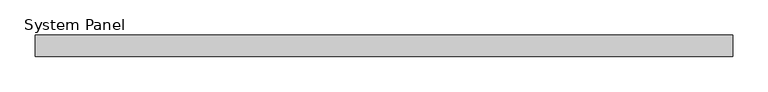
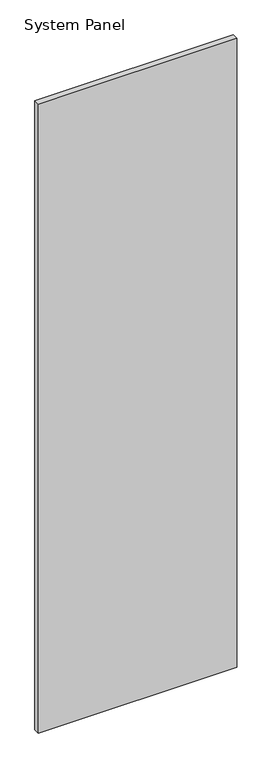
"""IFC4 building model written with IfcOpenShell, lengths in millimetres: plate geometry, System Panel : Panel_Glazed_Generic Showcase_30mm."""

import ifcopenshell
import ifcopenshell.guid

model = None  # the IFC model being written
_history = None  # IfcOwnerHistory: only IFC2X3 demands one
_inside = {}  # id of a spatial element -> (the spatial element, [elements in it])
_under = {}  # id of a project, library or spatial element -> (it, [spatial elements below it])
_declared = {}  # id of a project -> (the project, [libraries it declares])
_typed = {}  # id of a type object -> (the type object, [elements of that type])
_made_of = {}  # id of a material, layer set ... -> (it, [elements and type objects made of it])


def new_model(schema):
    """Start an empty IFC model of exactly this schema.

    Asked for "IFC4X3", IfcOpenShell would pick the latest addendum, in which some entities
    have other attributes; the version numbers below select the first issue.
    IFC2X3 requires an IfcOwnerHistory on every rooted entity: one is made here for all.
    """
    global model, _history
    if schema == "IFC4X3":
        model = ifcopenshell.file(schema_version=(4, 3, 0, 0))
    else:
        model = ifcopenshell.file(schema=schema)
    _inside.clear()
    _under.clear()
    _declared.clear()
    _typed.clear()
    _made_of.clear()
    _history = None
    if model.schema == "IFC2X3":
        org = make("IfcOrganization", Name="unknown")
        user = make(
            "IfcPersonAndOrganization",
            ThePerson=make("IfcPerson", FamilyName="unknown"),
            TheOrganization=org,
        )
        app = make(
            "IfcApplication",
            ApplicationDeveloper=org,
            Version="unknown",
            ApplicationFullName="unknown",
            ApplicationIdentifier="unknown",
        )
        _history = make(
            "IfcOwnerHistory",
            OwningUser=user,
            OwningApplication=app,
            ChangeAction="ADDED",
            CreationDate=0,
        )
    return model


def make(cls, **values):
    """One entity of the class cls with the attributes given. An attribute that is None is left unset."""
    return model.create_entity(
        cls, **{name: value for name, value in values.items() if value is not None}
    )


def rooted(cls, **values):
    """An entity with a GlobalId (a new one), such as an element, a storey or a relation."""
    return make(cls, GlobalId=ifcopenshell.guid.new(), OwnerHistory=_history, **values)


def si_unit(unit_type, name, prefix=None):
    """IfcSIUnit, for example si_unit("LENGTHUNIT", "METRE", prefix="MILLI")."""
    return make("IfcSIUnit", UnitType=unit_type, Prefix=prefix, Name=name)


def assignment(units):
    """IfcUnitAssignment: the units of a project."""
    return None if units is None else make("IfcUnitAssignment", Units=units)


def point(xyz):
    """IfcCartesianPoint."""
    return None if xyz is None else make("IfcCartesianPoint", Coordinates=xyz)


def direction(xyz):
    """IfcDirection."""
    return None if xyz is None else make("IfcDirection", DirectionRatios=xyz)


def frame(location, z_axis=None, x_axis=None):
    """IfcAxis2Placement3D, a coordinate frame: its origin and axes. An axis left out is left unset."""
    return make(
        "IfcAxis2Placement3D",
        Location=point(location),
        Axis=direction(z_axis),
        RefDirection=direction(x_axis),
    )


def origin():
    """The frame at (0, 0, 0) with its axes left unset."""
    return frame((0.0, 0.0, 0.0))


def origin_with_axes():
    """The frame at (0, 0, 0) with the z axis (0, 0, 1) and the x axis (1, 0, 0) written out."""
    return frame((0.0, 0.0, 0.0), z_axis=(0.0, 0.0, 1.0), x_axis=(1.0, 0.0, 0.0))


def place(relative_to, where):
    """IfcLocalPlacement: puts the frame where relative to a parent placement (None: the world)."""
    return make(
        "IfcLocalPlacement", PlacementRelTo=relative_to, RelativePlacement=where
    )


def context(
    kind, dimensions, precision=None, world=None, true_north=None, identifier=None
):
    """IfcGeometricRepresentationContext, for example the 3D "Model" context."""
    return make(
        "IfcGeometricRepresentationContext",
        ContextIdentifier=identifier,
        ContextType=kind,
        CoordinateSpaceDimension=dimensions,
        Precision=precision,
        WorldCoordinateSystem=world,
        TrueNorth=true_north,
    )


def project(units=None, contexts=None):
    """IfcProject with its units and contexts."""
    return rooted(
        "IfcProject",
        Name="project",
        RepresentationContexts=contexts,
        UnitsInContext=assignment(units),
    )


def spatial(cls, under=None, at=None, **own):
    """A site, building, storey or space (cls), placed at a placement, below another one or the project."""
    s = rooted(cls, ObjectPlacement=at, **own)
    if under is not None:
        _under.setdefault(under.id(), (under, []))[1].append(s)
    return s


def polyline(points):
    """IfcPolyline through the points."""
    return make("IfcPolyline", Points=[point(p) for p in points])


def outline(outer, holes=None, kind="AREA"):
    """IfcArbitraryClosedProfileDef: a profile drawn as a closed curve; with holes, ...WithVoids."""
    if holes is None:
        return make("IfcArbitraryClosedProfileDef", ProfileType=kind, OuterCurve=outer)
    return make(
        "IfcArbitraryProfileDefWithVoids",
        ProfileType=kind,
        OuterCurve=outer,
        InnerCurves=holes,
    )


def extrude(swept, where, along, depth):
    """IfcExtrudedAreaSolid: the profile swept, set in the frame where, extruded along a direction by depth."""
    return make(
        "IfcExtrudedAreaSolid",
        SweptArea=swept,
        Position=where,
        ExtrudedDirection=direction(along),
        Depth=depth,
    )


def shape(context_of_items, identifier, shape_type, items):
    """IfcShapeRepresentation: the items that make up one representation, for example the "Body"."""
    return make(
        "IfcShapeRepresentation",
        ContextOfItems=context_of_items,
        RepresentationIdentifier=identifier,
        RepresentationType=shape_type,
        Items=items,
    )


def source(mapping_origin, context_of_items, identifier, shape_type, items):
    """IfcRepresentationMap: a shape defined once, which mapped items show again and again."""
    return make(
        "IfcRepresentationMap",
        MappingOrigin=mapping_origin,
        MappedRepresentation=shape(context_of_items, identifier, shape_type, items),
    )


def transform(
    local_origin,
    x_axis=None,
    y_axis=None,
    z_axis=None,
    scale=None,
    scale2=None,
    scale3=None,
    uniform=True,
):
    """IfcCartesianTransformationOperator3D, or its non-uniform kind. x_axis, y_axis, z_axis: its Axis1, 2, 3."""
    if uniform:
        return make(
            "IfcCartesianTransformationOperator3D",
            Axis1=direction(x_axis),
            Axis2=direction(y_axis),
            LocalOrigin=point(local_origin),
            Scale=scale,
            Axis3=direction(z_axis),
        )
    return make(
        "IfcCartesianTransformationOperator3DnonUniform",
        Axis1=direction(x_axis),
        Axis2=direction(y_axis),
        LocalOrigin=point(local_origin),
        Scale=scale,
        Axis3=direction(z_axis),
        Scale2=scale2,
        Scale3=scale3,
    )


def mapped(mapping_source, mapping_target):
    """IfcMappedItem: shows the shape of a source again, moved by a transform."""
    return make(
        "IfcMappedItem", MappingSource=mapping_source, MappingTarget=mapping_target
    )


def made_of(thing, what):
    """Note that an element or type object is made of a material, layer set ...; save() writes the relation."""
    if what is not None:
        _made_of.setdefault(what.id(), (what, []))[1].append(thing)
    return thing


def element(
    cls,
    number,
    at=None,
    inside=None,
    cuts=None,
    type_object=None,
    material=None,
    context=None,
    identifier="Body",
    shape_type=None,
    held_by="IfcProductDefinitionShape",
    body=None,
    shapes=None,
    **own,
):
    """One element of the class cls, such as IfcWall. Its Tag is "e" and its number.

    at: its placement. inside: the storey or other place that contains it. cuts: it is an
    opening in that element (IfcRelVoidsElement). A single representation is given by context,
    identifier, shape_type and body (its items); several are given by shapes. held_by: the class
    of the entity that holds the representations. save() writes the other relations.
    """
    e = rooted(cls, Tag="e%d" % number, ObjectPlacement=at, **own)
    if body is not None:
        shapes = [shape(context, identifier, shape_type, body)]
    if shapes is not None:
        e.Representation = make(held_by, Representations=shapes)
    if inside is not None:
        _inside.setdefault(inside.id(), (inside, []))[1].append(e)
    if cuts is not None:
        rooted(
            "IfcRelVoidsElement", RelatingBuildingElement=cuts, RelatedOpeningElement=e
        )
    if type_object is not None:
        _typed.setdefault(type_object.id(), (type_object, []))[1].append(e)
    return made_of(e, material)


def aggregate(whole, parts):
    """IfcRelAggregates: a whole, such as a stair, and the parts it consists of."""
    return rooted("IfcRelAggregates", RelatingObject=whole, RelatedObjects=parts)


def save(model, path):
    """Write the relations noted so far, then the file.

    IfcRelAggregates (storeys below a building ...), IfcRelContainedInSpatialStructure (elements
    in a storey), IfcRelDefinesByType, IfcRelAssociatesMaterial and IfcRelDeclares: one each for
    every whole, place, type object, material and project.
    """
    for whole, parts in _under.values():
        aggregate(whole, parts)
    for where, things in _inside.values():
        rooted(
            "IfcRelContainedInSpatialStructure",
            RelatedElements=things,
            RelatingStructure=where,
        )
    for kind, things in _typed.values():
        rooted("IfcRelDefinesByType", RelatedObjects=things, RelatingType=kind)
    for what, things in _made_of.values():
        rooted("IfcRelAssociatesMaterial", RelatedObjects=things, RelatingMaterial=what)
    for by, libraries in _declared.values():
        rooted("IfcRelDeclares", RelatingContext=by, RelatedDefinitions=libraries)
    model.write(path)


def system_panel_7ee325bc(model_context):
    return source(origin(), model_context, "Body", "SweptSolid", [
        extrude(outline(polyline([(492.5, -30.0), (-492.5, -30.0), (-492.5, 0.0), (492.5, 0.0), (492.5, -30.0)])), origin_with_axes(), (0.0, 0.0, 1.0), 3300.0),
    ])


if __name__ == "__main__":
    model = new_model("IFC4")
    model_context = context("Model", 3, world=origin())
    ifc_project = project(units=[si_unit("LENGTHUNIT", "METRE", prefix="MILLI")], contexts=[model_context])
    site = spatial("IfcSite", under=ifc_project)
    building = spatial("IfcBuilding", under=site)
    placement = place(None, origin())
    system_panel_shape = system_panel_7ee325bc(model_context)
    element("IfcPlate", 1, ObjectType="System Panel : Panel_Glazed_Generic Showcase_30mm", at=placement, inside=building, context=model_context, shape_type="MappedRepresentation", body=[
        mapped(system_panel_shape, transform((0.0, 0.0, 0.0), x_axis=(1.0, 0.0, 0.0), y_axis=(0.0, 1.0, 0.0), z_axis=(0.0, 0.0, 1.0))),
    ])
    save(model, "model.ifc")
